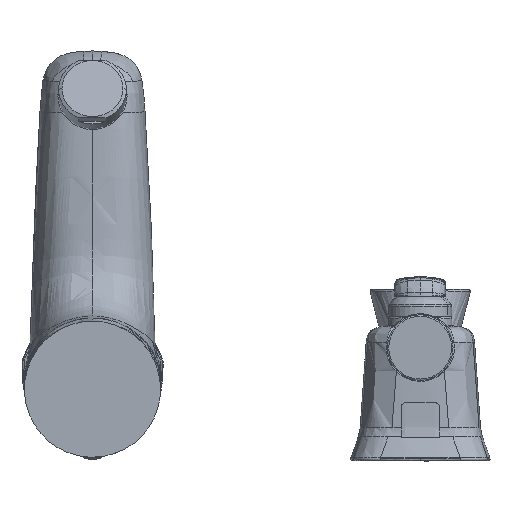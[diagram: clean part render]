
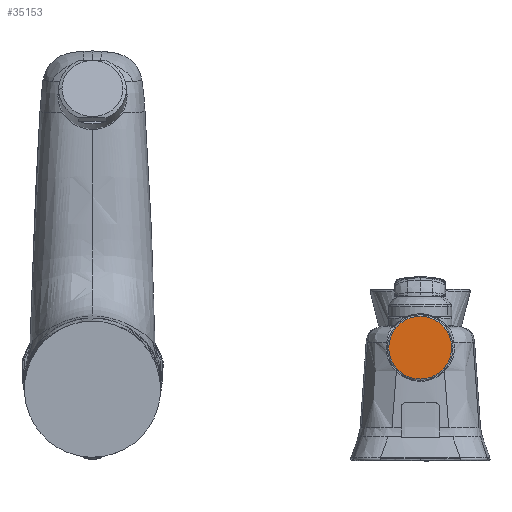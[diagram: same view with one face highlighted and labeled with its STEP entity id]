
A CAD part, front view. The second image highlights one B-rep face of the part: STEP entity #35153.
In plain terms, the highlighted planar face has unit normal (0, -1, 0).
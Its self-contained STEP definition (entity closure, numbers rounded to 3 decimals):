
#8484 = EDGE_CURVE ( 'NONE', #37567, #91142, #66411, .T. ) ;
#9779 = EDGE_CURVE ( 'NONE', #91142, #37567, #39117, .T. ) ;
#11455 = ORIENTED_EDGE ( 'NONE', *, *, #9779, .F. ) ;
#12652 = AXIS2_PLACEMENT_3D ( 'NONE', #70552, #62273, #32365 ) ;
#14799 = CARTESIAN_POINT ( 'NONE',  ( 309.775, 535.765, 696.664 ) ) ;
#21495 = DIRECTION ( 'NONE',  ( 0., 1., 0. ) ) ;
#29149 = CARTESIAN_POINT ( 'NONE',  ( 301.192, 535.765, 703.746 ) ) ;
#32365 = DIRECTION ( 'NONE',  ( 0.771, 0., -0.636 ) ) ;
#35153 = ADVANCED_FACE ( 'NONE', ( #73746 ), #39696, .T. ) ;
#37567 = VERTEX_POINT ( 'NONE', #45096 ) ;
#39117 = CIRCLE ( 'NONE', #95815, 11.128 ) ;
#39696 = PLANE ( 'NONE',  #12652 ) ;
#40056 = CARTESIAN_POINT ( 'NONE',  ( 301.192, 535.765, 703.746 ) ) ;
#45096 = CARTESIAN_POINT ( 'NONE',  ( 292.609, 535.765, 710.829 ) ) ;
#55969 = DIRECTION ( 'NONE',  ( 0., 1., 0. ) ) ;
#62083 = AXIS2_PLACEMENT_3D ( 'NONE', #29149, #21495, #82984 ) ;
#62273 = DIRECTION ( 'NONE',  ( 0., -1., 0. ) ) ;
#62654 = DIRECTION ( 'NONE',  ( 0.771, 0., -0.636 ) ) ;
#66411 = CIRCLE ( 'NONE', #62083, 11.128 ) ;
#70552 = CARTESIAN_POINT ( 'NONE',  ( 292.206, 535.765, 711.161 ) ) ;
#73746 = FACE_OUTER_BOUND ( 'NONE', #94348, .T. ) ;
#77548 = ORIENTED_EDGE ( 'NONE', *, *, #8484, .F. ) ;
#82984 = DIRECTION ( 'NONE',  ( 0.771, 0., -0.636 ) ) ;
#91142 = VERTEX_POINT ( 'NONE', #14799 ) ;
#94348 = EDGE_LOOP ( 'NONE', ( #11455, #77548 ) ) ;
#95815 = AXIS2_PLACEMENT_3D ( 'NONE', #40056, #55969, #62654 ) ;
